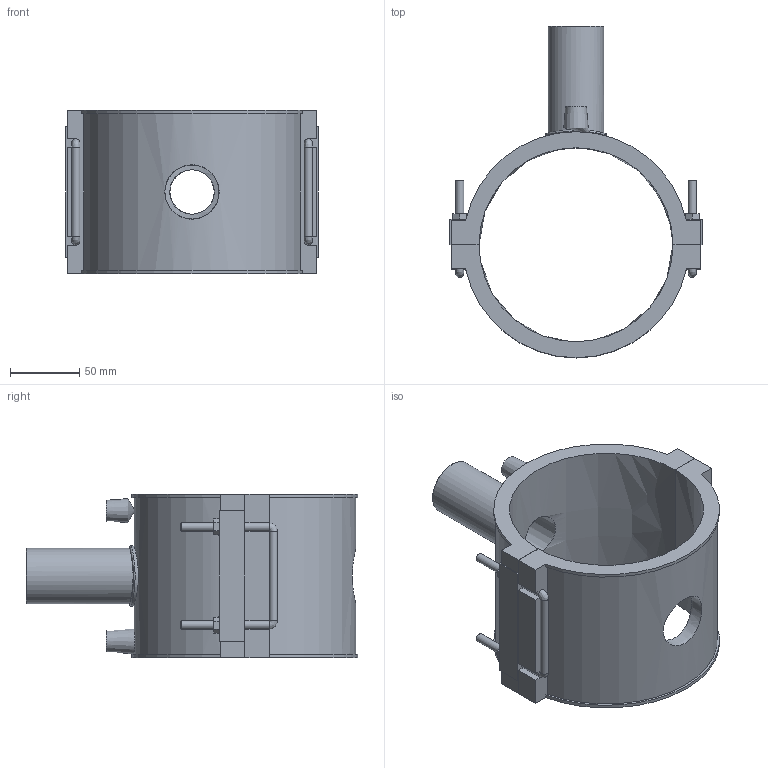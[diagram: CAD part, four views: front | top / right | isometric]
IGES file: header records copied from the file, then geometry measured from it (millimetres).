
Global section: file name: 495804140040.ipt; native system: Autodesk Inventor 2015; preprocessor: unknown; author: KIM; date: 20180426.120845; units: millimetre
Bounding box: 182 x 239.6 x 118 mm (x, y, z)
Volume: 681899.3 mm3; surface area: 165618.6 mm2
Topology: 2 solids, 2 shells, 133 faces, 340 edges, 214 vertices
Faces by surface type: plane 85, cylinder 22, revolution 10, bspline 9, cone 7
Full cylindrical faces by diameter (mm): 4 x2, 6 x10, 40 x1, 44 x1
